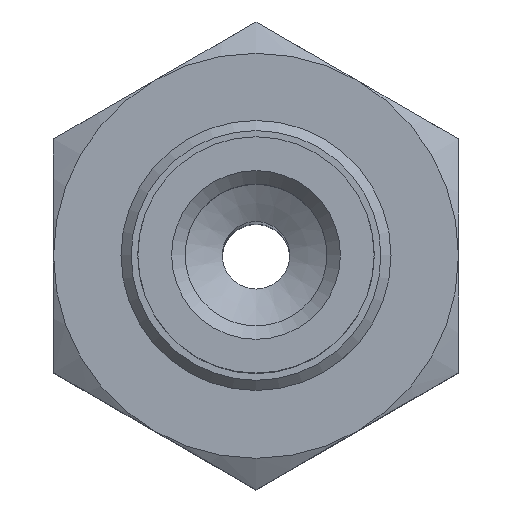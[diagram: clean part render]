
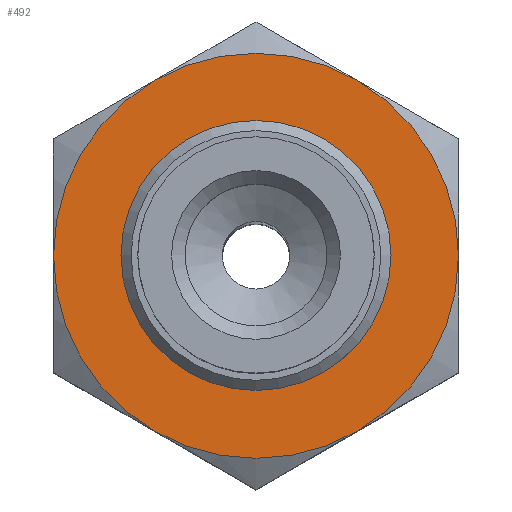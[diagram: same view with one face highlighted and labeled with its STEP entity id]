
A CAD part, top view. The second image highlights one B-rep face of the part: STEP entity #492.
In plain terms, the highlighted planar face has unit normal (0, 0, 1).
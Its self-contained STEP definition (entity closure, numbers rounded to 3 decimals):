
#492=ADVANCED_FACE('',(#700,#701),#702,.T.);
#700=FACE_BOUND('',#1021,.T.);
#701=FACE_OUTER_BOUND('',#1022,.T.);
#702=PLANE('',#1023);
#1021=EDGE_LOOP('',(#1503));
#1022=EDGE_LOOP('',(#1504,#1505,#1506,#1507,#1508,#1509));
#1023=AXIS2_PLACEMENT_3D('',#1510,#1511,#1512);
#1503=ORIENTED_EDGE('',*,*,#2075,.T.);
#1504=ORIENTED_EDGE('',*,*,#2076,.T.);
#1505=ORIENTED_EDGE('',*,*,#2077,.T.);
#1506=ORIENTED_EDGE('',*,*,#2041,.T.);
#1507=ORIENTED_EDGE('',*,*,#2063,.T.);
#1508=ORIENTED_EDGE('',*,*,#2078,.T.);
#1509=ORIENTED_EDGE('',*,*,#2073,.T.);
#1510=CARTESIAN_POINT('',(-6.928,-6.0,3.0));
#1511=DIRECTION('',(0.0,0.0,1.0));
#1512=DIRECTION('',(1.0,0.0,0.0));
#2041=EDGE_CURVE('',#2286,#2277,#2287,.T.);
#2063=EDGE_CURVE('',#2277,#2323,#2325,.T.);
#2073=EDGE_CURVE('',#2301,#2292,#2338,.T.);
#2075=EDGE_CURVE('',#2340,#2340,#2341,.T.);
#2076=EDGE_CURVE('',#2292,#2319,#2342,.T.);
#2077=EDGE_CURVE('',#2319,#2286,#2343,.T.);
#2078=EDGE_CURVE('',#2323,#2301,#2344,.T.);
#2277=VERTEX_POINT('',#2632);
#2286=VERTEX_POINT('',#2654);
#2287=CIRCLE('',#2655,6.0);
#2292=VERTEX_POINT('',#2665);
#2301=VERTEX_POINT('',#2687);
#2319=VERTEX_POINT('',#2731);
#2323=VERTEX_POINT('',#2743);
#2325=CIRCLE('',#2749,6.0);
#2338=CIRCLE('',#2778,6.0);
#2340=VERTEX_POINT('',#2780);
#2341=CIRCLE('',#2781,3.925);
#2342=CIRCLE('',#2782,6.0);
#2343=CIRCLE('',#2783,6.0);
#2344=CIRCLE('',#2784,6.0);
#2632=CARTESIAN_POINT('',(-5.196,3.0,3.0));
#2654=CARTESIAN_POINT('',(0.,6.0,3.0));
#2655=AXIS2_PLACEMENT_3D('',#3231,#3232,#3233);
#2665=CARTESIAN_POINT('',(5.196,-3.0,3.0));
#2687=CARTESIAN_POINT('',(0.,-6.0,3.0));
#2731=CARTESIAN_POINT('',(5.196,3.0,3.0));
#2743=CARTESIAN_POINT('',(-5.196,-3.0,3.0));
#2749=AXIS2_PLACEMENT_3D('',#3244,#3245,#3246);
#2778=AXIS2_PLACEMENT_3D('',#3259,#3260,#3261);
#2780=CARTESIAN_POINT('',(3.925,0.0,3.0));
#2781=AXIS2_PLACEMENT_3D('',#3265,#3266,#3267);
#2782=AXIS2_PLACEMENT_3D('',#3268,#3269,#3270);
#2783=AXIS2_PLACEMENT_3D('',#3271,#3272,#3273);
#2784=AXIS2_PLACEMENT_3D('',#3274,#3275,#3276);
#3231=CARTESIAN_POINT('',(0.,0.0,3.0));
#3232=DIRECTION('',(0.0,0.,1.0));
#3233=DIRECTION('',(0.0,-1.0,0.));
#3244=CARTESIAN_POINT('',(0.,0.0,3.0));
#3245=DIRECTION('',(0.0,0.,1.0));
#3246=DIRECTION('',(0.0,-1.0,0.));
#3259=CARTESIAN_POINT('',(0.,0.0,3.0));
#3260=DIRECTION('',(0.0,0.,1.0));
#3261=DIRECTION('',(0.0,-1.0,0.));
#3265=CARTESIAN_POINT('',(0.0,0.0,3.0));
#3266=DIRECTION('',(0.0,0.0,-1.0));
#3267=DIRECTION('',(1.0,0.0,0.0));
#3268=CARTESIAN_POINT('',(0.,0.0,3.0));
#3269=DIRECTION('',(0.0,0.,1.0));
#3270=DIRECTION('',(0.0,-1.0,0.));
#3271=CARTESIAN_POINT('',(0.,0.0,3.0));
#3272=DIRECTION('',(0.0,0.,1.0));
#3273=DIRECTION('',(0.0,-1.0,0.));
#3274=CARTESIAN_POINT('',(0.,0.0,3.0));
#3275=DIRECTION('',(0.0,0.,1.0));
#3276=DIRECTION('',(0.0,-1.0,0.));
